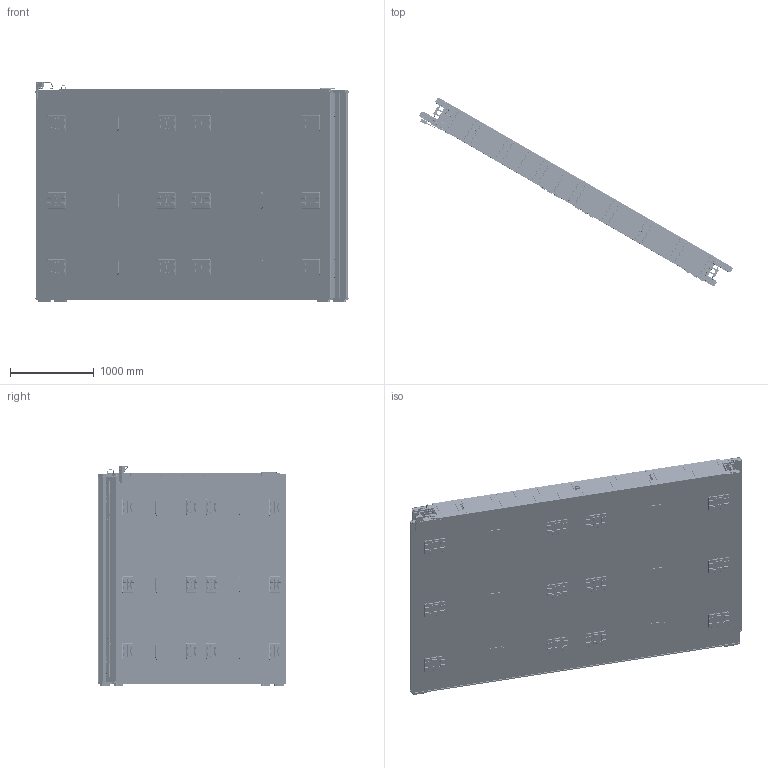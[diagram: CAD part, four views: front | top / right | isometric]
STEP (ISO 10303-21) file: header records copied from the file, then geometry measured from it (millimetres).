
FILE_DESCRIPTION(/* description */ (''),/* implementation_level */ '2;1');
FILE_NAME(/* name */ '040209_mb45_2_4_3_dx_phi_L_carters.stp',/* time_stamp */ '2022-07-08T11:29:49+02:00',/* author */ (''),/* organization */ (''),/* preprocessor_version */ 'ST-DEVELOPER v18.102',/* originating_system */ 'SIEMENS PLM Software NX 2000',/* authorisation */ '');
FILE_SCHEMA (('AUTOMOTIVE_DESIGN { 1 0 10303 214 3 1 1 1 }'));
Products named in the file (157): rivetto_4; guide_schematik_for_verify2; guide_schematik_for_verify; spina_5x26; elicoil; rivetto_svas_m10; slow_control_model; power_supply_model; tappo1_4; connett_test_p; connett_fe; mb45_phi_lam_vars; mb3c_phi_lam_vars; mb3_phi_lam_vars; mb2c_th_lam_vars; mb2c_phi_lam_vars; mb2_th_lam_vars; mb2_phi_lam_vars; mb3c_th_lam_vars; mb45c_phi_lam_vars; mb3_th_lam_vars; mb48_phi_lam_vars; mb1_phi_lam_vars; mb1_th_lam_vars; mb49_phi_lam_vars; mb1c_phi_lam_vars; mb1c_th_lam_vars; cover_new2; axis; tappo1_8; i_endplug; wire_endplug; colon_front_000308; block_sh12_000301; mb1_q1_strip; corpo_elbow; w4s_hc_skin_178; w4s_hc_core_178; cms_mb_05_010; fork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
Assembly tree (400 placements, depth 7):
  040209_mb45_2_4_3_dx_phi_L_carters
    mb45_2_4_3_dx_ass
      mb45_2_4_3_dx_ch
        mb45_phi_superlay  x2
          mb45_q1_ass_lamiere
            mb45_q1_b1
            mb45_q1_b1_corto  x3
              mb1_q1_strip
            mb45_q1_b1_up
            cms_mb_02_020  x4
          mb3_q1_ass_lateral
            as_angle  x2
              block_sh12_000301
              colon_front_000308
            cms_mb_02_014
          vite_m4
          wires_2d_ass_mb_z_4_5_q1
            wires_2d_mb_z_4_5_q1
            ibeams_2d_mb_z_4_5_q1
            mb45_q1_as_w_endplug
              wire_endplug  x2
            mb45_q1_as_i_endplug
              i_endplug  x2
          mb45_q1_cover_hv_ass
            cms_mb_02_029
            cms_mb_02_024
              tappo1_8  x2
              axis  x59
            as_hv_conn_cover  x2
              cover_new2
          vars
            mb1c_th_vars
              mb1c_th_lam_vars
            mb1c_phi_vars
              mb1c_phi_lam_vars
            mb49_phi_vars
              mb49_phi_lam_vars
            mb1_th_vars
              mb1_th_lam_vars
            mb1_phi_vars
              mb1_phi_lam_vars
            mb48_phi_vars
              mb48_phi_lam_vars
            mb3_th_vars
              mb3_th_lam_vars
            mb45c_phi_vars
              mb45c_phi_lam_vars
            mb3c_th_vars
              mb3c_th_lam_vars
            mb2_phi_vars
              mb2_phi_lam_vars
            mb2_th_vars
              mb2_th_lam_vars
            mb2c_phi_vars
              mb2c_phi_lam_vars
            mb2c_th_vars
              mb2c_th_lam_vars
            mb3_phi_vars
              mb3_phi_lam_vars
            mb3c_phi_vars
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Bounding box: 3750.24 x 2249.08 x 2646 mm (x, y, z)
Volume: 1897793228.4 mm3; surface area: 434178525.9 mm2
Topology: 370 solids, 370 shells, 17309 faces, 49171 edges, 32533 vertices
Faces by surface type: plane 8655, cylinder 6966, cone 1368, bspline 149, torus 123, sphere 48
Full cylindrical faces by diameter (mm): 1 x370, 1.675 x12, 2 x16, 2.594 x72, 3 x96, 3.2 x16, 3.25 x2, 3.3 x48, 3.432 x933, 3.5 x66, 3.778 x7, 4 x34, 4.351 x8, 4.5 x4, 4.8 x34, 5 x103, 5.188 x80, 5.5 x552, 6 x24, 6.4 x22, 6.5 x17, 7 x2, 7.188 x4, 7.5 x96, 8 x63, 8.6 x6, 8.782 x4, 8.8 x10, 8.933 x28, 8.985 x24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
Entity records: 384428 total; most frequent: CARTESIAN_POINT 97324, DIRECTION 57477, ORIENTED_EDGE 54788, EDGE_CURVE 27394, AXIS2_PLACEMENT_3D 20275, VERTEX_POINT 19757, LINE 16927, VECTOR 16927
